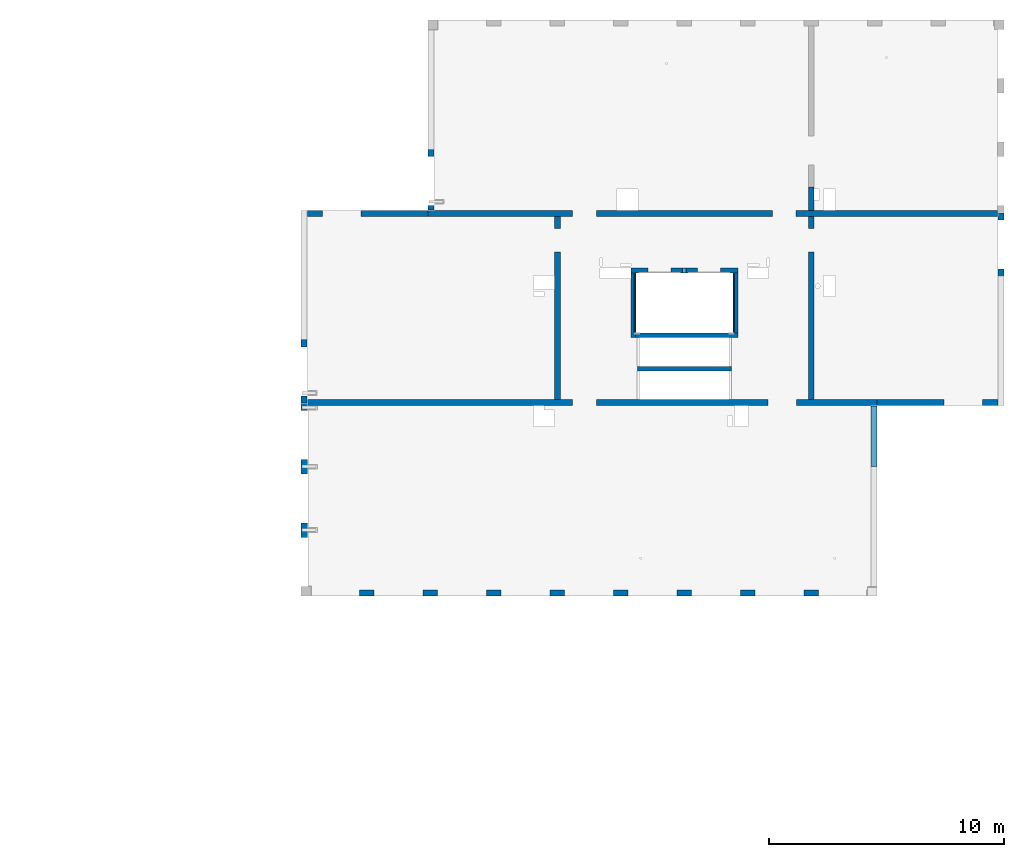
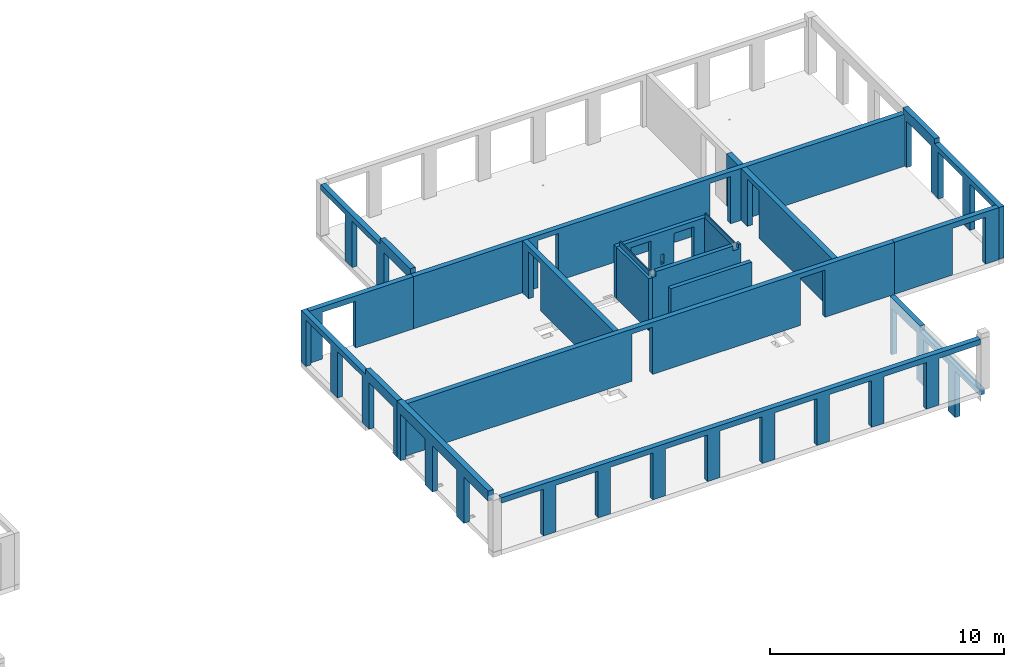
# One storey, part 6 of 12: 20 walls, 42 openings.
"""IFC2X3 building model written with IfcOpenShell, lengths in millimetres."""

import ifcopenshell
import ifcopenshell.guid

model = None  # the IFC model being written
_history = None  # IfcOwnerHistory: only IFC2X3 demands one
_inside = {}  # id of a spatial element -> (the spatial element, [elements in it])
_under = {}  # id of a project, library or spatial element -> (it, [spatial elements below it])
_declared = {}  # id of a project -> (the project, [libraries it declares])
_typed = {}  # id of a type object -> (the type object, [elements of that type])
_made_of = {}  # id of a material, layer set ... -> (it, [elements and type objects made of it])


def new_model(schema):
    """Start an empty IFC model of exactly this schema.

    Asked for "IFC4X3", IfcOpenShell would pick the latest addendum, in which some entities
    have other attributes; the version numbers below select the first issue.
    IFC2X3 requires an IfcOwnerHistory on every rooted entity: one is made here for all.
    """
    global model, _history
    if schema == "IFC4X3":
        model = ifcopenshell.file(schema_version=(4, 3, 0, 0))
    else:
        model = ifcopenshell.file(schema=schema)
    _inside.clear()
    _under.clear()
    _declared.clear()
    _typed.clear()
    _made_of.clear()
    _history = None
    if model.schema == "IFC2X3":
        org = make("IfcOrganization", Name="unknown")
        user = make(
            "IfcPersonAndOrganization",
            ThePerson=make("IfcPerson", FamilyName="unknown"),
            TheOrganization=org,
        )
        app = make(
            "IfcApplication",
            ApplicationDeveloper=org,
            Version="unknown",
            ApplicationFullName="unknown",
            ApplicationIdentifier="unknown",
        )
        _history = make(
            "IfcOwnerHistory",
            OwningUser=user,
            OwningApplication=app,
            ChangeAction="ADDED",
            CreationDate=0,
        )
    return model


def make(cls, **values):
    """One entity of the class cls with the attributes given. An attribute that is None is left unset."""
    return model.create_entity(
        cls, **{name: value for name, value in values.items() if value is not None}
    )


def entity(cls, *values):
    """Any entity or typed value of the class cls, its attributes in the order of the schema. None: left unset."""
    e = model.create_entity(cls)
    for i, value in enumerate(values):
        if value is not None:
            e[i] = value
    return e


def rooted(cls, **values):
    """An entity with a GlobalId (a new one), such as an element, a storey or a relation."""
    return make(cls, GlobalId=ifcopenshell.guid.new(), OwnerHistory=_history, **values)


def si_unit(unit_type, name, prefix=None):
    """IfcSIUnit, for example si_unit("LENGTHUNIT", "METRE", prefix="MILLI")."""
    return make("IfcSIUnit", UnitType=unit_type, Prefix=prefix, Name=name)


def converted_unit(unit_type, name, factor, base, dimensions=None, offset=None):
    """IfcConversionBasedUnit, such as the inch: factor (a typed value) times the base unit."""
    return make(
        "IfcConversionBasedUnit"
        if offset is None
        else "IfcConversionBasedUnitWithOffset",
        ConversionOffset=offset,
        Dimensions=None
        if dimensions is None
        else entity("IfcDimensionalExponents", *dimensions),
        UnitType=unit_type,
        Name=name,
        ConversionFactor=make(
            "IfcMeasureWithUnit", ValueComponent=factor, UnitComponent=base
        ),
    )


def derived_unit(unit_type, elements):
    """IfcDerivedUnit: a product of units, each with its exponent."""
    return make(
        "IfcDerivedUnit",
        Elements=[
            make("IfcDerivedUnitElement", Unit=unit, Exponent=power)
            for unit, power in elements
        ],
        UnitType=unit_type,
    )


def assignment(units):
    """IfcUnitAssignment: the units of a project."""
    return None if units is None else make("IfcUnitAssignment", Units=units)


def point(xyz):
    """IfcCartesianPoint."""
    return None if xyz is None else make("IfcCartesianPoint", Coordinates=xyz)


def direction(xyz):
    """IfcDirection."""
    return None if xyz is None else make("IfcDirection", DirectionRatios=xyz)


def frame(location, z_axis=None, x_axis=None):
    """IfcAxis2Placement3D, a coordinate frame: its origin and axes. An axis left out is left unset."""
    return make(
        "IfcAxis2Placement3D",
        Location=point(location),
        Axis=direction(z_axis),
        RefDirection=direction(x_axis),
    )


def frame_2d(location, x_axis=None):
    """IfcAxis2Placement2D, a coordinate frame in the plane: its origin and x axis."""
    return make(
        "IfcAxis2Placement2D", Location=point(location), RefDirection=direction(x_axis)
    )


def origin():
    """The frame at (0, 0, 0) with its axes left unset."""
    return frame((0.0, 0.0, 0.0))


def origin_2d_with_axis():
    """The frame at (0, 0) in the plane with the x axis (1, 0) written out."""
    return frame_2d((0.0, 0.0), x_axis=(1.0, 0.0))


def place(relative_to, where):
    """IfcLocalPlacement: puts the frame where relative to a parent placement (None: the world)."""
    return make(
        "IfcLocalPlacement", PlacementRelTo=relative_to, RelativePlacement=where
    )


def context(
    kind, dimensions, precision=None, world=None, true_north=None, identifier=None
):
    """IfcGeometricRepresentationContext, for example the 3D "Model" context."""
    return make(
        "IfcGeometricRepresentationContext",
        ContextIdentifier=identifier,
        ContextType=kind,
        CoordinateSpaceDimension=dimensions,
        Precision=precision,
        WorldCoordinateSystem=world,
        TrueNorth=true_north,
    )


def subcontext(parent, identifier, kind, view, scale=None):
    """IfcGeometricRepresentationSubContext, for example "Body" below "Model"."""
    return make(
        "IfcGeometricRepresentationSubContext",
        ContextIdentifier=identifier,
        ContextType=kind,
        ParentContext=parent,
        TargetScale=scale,
        TargetView=view,
    )


def project(units=None, contexts=None):
    """IfcProject with its units and contexts."""
    return rooted(
        "IfcProject",
        Name="project",
        RepresentationContexts=contexts,
        UnitsInContext=assignment(units),
    )


def spatial(cls, under=None, at=None, **own):
    """A site, building, storey or space (cls), placed at a placement, below another one or the project."""
    s = rooted(cls, ObjectPlacement=at, **own)
    if under is not None:
        _under.setdefault(under.id(), (under, []))[1].append(s)
    return s


def profile(cls, at=None, kind="AREA", **sizes):
    """A parametric profile (cls). Its sizes go by their IFC names, for example OverallWidth=200.0."""
    return make(cls, ProfileType=kind, Position=at, **sizes)


def rectangle(**sizes):
    """IfcRectangleProfileDef."""
    return profile("IfcRectangleProfileDef", **sizes)


def extrude(swept, where, along, depth):
    """IfcExtrudedAreaSolid: the profile swept, set in the frame where, extruded along a direction by depth."""
    return make(
        "IfcExtrudedAreaSolid",
        SweptArea=swept,
        Position=where,
        ExtrudedDirection=direction(along),
        Depth=depth,
    )


def shape(context_of_items, identifier, shape_type, items):
    """IfcShapeRepresentation: the items that make up one representation, for example the "Body"."""
    return make(
        "IfcShapeRepresentation",
        ContextOfItems=context_of_items,
        RepresentationIdentifier=identifier,
        RepresentationType=shape_type,
        Items=items,
    )


def material(Name=None, Category=None):
    """IfcMaterial."""
    return make("IfcMaterial", Name=Name, Category=Category)


def layer(
    of_material, thickness, ventilated=None, Name=None, Category=None, Priority=None
):
    """IfcMaterialLayer: one layer of a wall or slab, of a material (None: an air gap)."""
    return make(
        "IfcMaterialLayer",
        Material=of_material,
        LayerThickness=thickness,
        IsVentilated=ventilated,
        Name=Name,
        Category=Category,
        Priority=Priority,
    )


def layer_set(layers, Name=None):
    """IfcMaterialLayerSet."""
    return make("IfcMaterialLayerSet", MaterialLayers=layers, LayerSetName=Name)


def layer_usage(for_layer_set, set_direction, sense, offset, extent=None):
    """IfcMaterialLayerSetUsage: how a layer set lies in its element."""
    return make(
        "IfcMaterialLayerSetUsage",
        ForLayerSet=for_layer_set,
        LayerSetDirection=set_direction,
        DirectionSense=sense,
        OffsetFromReferenceLine=offset,
        ReferenceExtent=extent,
    )


def made_of(thing, what):
    """Note that an element or type object is made of a material, layer set ...; save() writes the relation."""
    if what is not None:
        _made_of.setdefault(what.id(), (what, []))[1].append(thing)
    return thing


def type_object(cls, material=None, **own):
    """A type object (cls), such as IfcWallType, which elements share."""
    return made_of(rooted(cls, **own), material)


def element(
    cls,
    number,
    at=None,
    inside=None,
    cuts=None,
    type_object=None,
    material=None,
    context=None,
    identifier="Body",
    shape_type=None,
    held_by="IfcProductDefinitionShape",
    body=None,
    shapes=None,
    **own,
):
    """One element of the class cls, such as IfcWall. Its Tag is "e" and its number.

    at: its placement. inside: the storey or other place that contains it. cuts: it is an
    opening in that element (IfcRelVoidsElement). A single representation is given by context,
    identifier, shape_type and body (its items); several are given by shapes. held_by: the class
    of the entity that holds the representations. save() writes the other relations.
    """
    e = rooted(cls, Tag="e%d" % number, ObjectPlacement=at, **own)
    if body is not None:
        shapes = [shape(context, identifier, shape_type, body)]
    if shapes is not None:
        e.Representation = make(held_by, Representations=shapes)
    if inside is not None:
        _inside.setdefault(inside.id(), (inside, []))[1].append(e)
    if cuts is not None:
        rooted(
            "IfcRelVoidsElement", RelatingBuildingElement=cuts, RelatedOpeningElement=e
        )
    if type_object is not None:
        _typed.setdefault(type_object.id(), (type_object, []))[1].append(e)
    return made_of(e, material)


def aggregate(whole, parts):
    """IfcRelAggregates: a whole, such as a stair, and the parts it consists of."""
    return rooted("IfcRelAggregates", RelatingObject=whole, RelatedObjects=parts)


def save(model, path):
    """Write the relations noted so far, then the file.

    IfcRelAggregates (storeys below a building ...), IfcRelContainedInSpatialStructure (elements
    in a storey), IfcRelDefinesByType, IfcRelAssociatesMaterial and IfcRelDeclares: one each for
    every whole, place, type object, material and project.
    """
    for whole, parts in _under.values():
        aggregate(whole, parts)
    for where, things in _inside.values():
        rooted(
            "IfcRelContainedInSpatialStructure",
            RelatedElements=things,
            RelatingStructure=where,
        )
    for kind, things in _typed.values():
        rooted("IfcRelDefinesByType", RelatedObjects=things, RelatingType=kind)
    for what, things in _made_of.values():
        rooted("IfcRelAssociatesMaterial", RelatedObjects=things, RelatingMaterial=what)
    for by, libraries in _declared.values():
        rooted("IfcRelDeclares", RelatingContext=by, RelatedDefinitions=libraries)
    model.write(path)


model = new_model("IFC2X3")

# Units and contexts
model_context = context("Model", 3, precision=0.01, world=origin(), true_north=direction((6.12303176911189e-17, 1.0)))
body_context = subcontext(model_context, "Body", "Model", "MODEL_VIEW")
ifc_project = project(units=[si_unit("LENGTHUNIT", "METRE", prefix="MILLI"), si_unit("AREAUNIT", "SQUARE_METRE"), si_unit("VOLUMEUNIT", "CUBIC_METRE"), converted_unit("PLANEANGLEUNIT", "DEGREE", entity("IfcRatioMeasure", 0.0174532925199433), si_unit("PLANEANGLEUNIT", "RADIAN"), dimensions=[0, 0, 0, 0, 0, 0, 0]), si_unit("MASSUNIT", "GRAM", prefix="KILO"), derived_unit("MASSDENSITYUNIT", [(si_unit("MASSUNIT", "GRAM", prefix="KILO"), 1), (si_unit("LENGTHUNIT", "METRE"), -3)]), si_unit("TIMEUNIT", "SECOND"), si_unit("FREQUENCYUNIT", "HERTZ"), si_unit("THERMODYNAMICTEMPERATUREUNIT", "DEGREE_CELSIUS"), derived_unit("THERMALTRANSMITTANCEUNIT", [(si_unit("MASSUNIT", "GRAM", prefix="KILO"), 1), (si_unit("THERMODYNAMICTEMPERATUREUNIT", "KELVIN"), -1), (si_unit("TIMEUNIT", "SECOND"), -3)]), derived_unit("VOLUMETRICFLOWRATEUNIT", [(si_unit("LENGTHUNIT", "METRE"), 3), (si_unit("TIMEUNIT", "SECOND"), -1)]), si_unit("ELECTRICCURRENTUNIT", "AMPERE"), si_unit("ELECTRICVOLTAGEUNIT", "VOLT"), si_unit("POWERUNIT", "WATT"), si_unit("FORCEUNIT", "NEWTON", prefix="KILO"), si_unit("ILLUMINANCEUNIT", "LUX"), si_unit("LUMINOUSFLUXUNIT", "LUMEN"), si_unit("LUMINOUSINTENSITYUNIT", "CANDELA"), derived_unit("USERDEFINED", [(si_unit("MASSUNIT", "GRAM", prefix="KILO"), -1), (si_unit("LENGTHUNIT", "METRE"), -2), (si_unit("TIMEUNIT", "SECOND"), 3), (si_unit("LUMINOUSFLUXUNIT", "LUMEN"), 1)]), derived_unit("LINEARVELOCITYUNIT", [(si_unit("LENGTHUNIT", "METRE"), 1), (si_unit("TIMEUNIT", "SECOND"), -1)]), si_unit("PRESSUREUNIT", "PASCAL"), derived_unit("USERDEFINED", [(si_unit("LENGTHUNIT", "METRE"), -2), (si_unit("MASSUNIT", "GRAM", prefix="KILO"), 1), (si_unit("TIMEUNIT", "SECOND"), -2)])], contexts=[model_context])

# Site, building, storey
site_placement = place(None, origin())
site = spatial("IfcSite", under=ifc_project, at=site_placement, Name="Default", CompositionType="ELEMENT")
building_placement = place(site_placement, origin())
building = spatial("IfcBuilding", under=site, at=building_placement, Name="niet gebruiken", CompositionType="ELEMENT")
storey_placement = place(building_placement, frame((0.0, 0.0, 18540.0)))
storey = spatial("IfcBuildingStorey", under=building, at=storey_placement, Name="06 zesde verdieping", CompositionType="ELEMENT", Elevation=18540.0)

# Wall, openings
ifc_material_1 = material(Name="NLRS_f2_beton ihwg")
ifc_layer_1 = layer(ifc_material_1, 250.0)
ifc_layer_set_1 = layer_set([ifc_layer_1], Name="Basic Wall:NLRS_22.21_WA_beton ihwg d=250_gen")
ifc_layer_usage_1 = layer_usage(ifc_layer_set_1, "AXIS2", "NEGATIVE", 125.0)
wall_type_1 = type_object("IfcWallType", Name="Basic Wall:NLRS_22.21_WA_beton ihwg d=250_gen", PredefinedType="STANDARD", material=ifc_layer_set_1)
wall_1_placement = place(storey_placement, frame((75770.0, 36981.0, -90.0)))
wall_1 = element("IfcWallStandardCase", 1, at=wall_1_placement, inside=storey, type_object=wall_type_1, material=ifc_layer_usage_1, Name="Basic Wall:NLRS_22.21_WA_beton ihwg d=250_gen", ObjectType="Basic Wall:NLRS_22.21_WA_beton ihwg d=250_gen", context=body_context, shape_type="SweptSolid", body=[
    extrude(rectangle(XDim=24230.0, YDim=250.000000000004, at=frame_2d((12115.0, 0.0), x_axis=(-1.0, 0.0))), origin(), (0.0, 0.0, 1.0), 2719.99999999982),
])
opening_1_placement = place(wall_1_placement, origin())
element("IfcOpeningElement", 2, at=opening_1_placement, cuts=wall_1, Name="Basic Wall:NLRS_22.21_WA_beton ihwg d=250_gen", ObjectType="Opening", context=body_context, shape_type="SweptSolid", body=[
    extrude(rectangle(XDim=2470.0, YDim=1225.0, at=frame_2d((8.69704308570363e-12, 0.0), x_axis=(0.0, 1.0))), frame((20192.500000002, -1399.0, 1235.0), z_axis=(0.0, 1.0, 0.0), x_axis=(-1.0, 0.0, 0.0)), (0.0, 0.0, 1.0), 3048.0),
])
opening_2_placement = place(wall_1_placement, origin())
element("IfcOpeningElement", 3, at=opening_2_placement, cuts=wall_1, Name="Basic Wall:NLRS_22.21_WA_beton ihwg d=250_gen", ObjectType="Opening", context=body_context, shape_type="SweptSolid", body=[
    extrude(rectangle(XDim=2470.0, YDim=1006.0, at=frame_2d((8.66862137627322e-12, 3.29691829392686e-12), x_axis=(0.0, 1.0))), frame((11782.0, -1399.0, 1235.0), z_axis=(0.0, 1.0, 0.0), x_axis=(-1.0, 0.0, 0.0)), (0.0, 0.0, 1.0), 3048.0),
])
opening_3_placement = place(wall_1_placement, origin())
element("IfcOpeningElement", 4, at=opening_3_placement, cuts=wall_1, Name="Basic Wall:NLRS_22.21_WA_beton ihwg d=250_gen", ObjectType="Recess", context=body_context, shape_type="SweptSolid", body=[
    extrude(rectangle(XDim=55000.0, YDim=19.9999999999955, at=frame_2d((0.0, 4.33164615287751e-12), x_axis=(1.0, 0.0))), frame((10.0, -140.0, 21560.0), z_axis=(0.0, 1.0, 0.0), x_axis=(0.0, 0.0, -1.0)), (0.0, 0.0, 1.0), 124.999999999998),
])

# Wall, opening
ifc_layer_usage_2 = layer_usage(ifc_layer_set_1, "AXIS2", "NEGATIVE", 125.0)
wall_2_placement = place(storey_placement, frame((75770.0, 45031.0, -90.0)))
wall_2 = element("IfcWallStandardCase", 5, at=wall_2_placement, inside=storey, type_object=wall_type_1, material=ifc_layer_usage_2, Name="Basic Wall:NLRS_22.21_WA_beton ihwg d=250_gen", ObjectType="Basic Wall:NLRS_22.21_WA_beton ihwg d=250_gen", context=body_context, shape_type="SweptSolid", body=[
    extrude(rectangle(XDim=5130.0, YDim=249.999999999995, at=frame_2d((2565.0, 0.0), x_axis=(-1.0, 0.0))), origin(), (0.0, 0.0, 1.0), 2719.99999999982),
])
opening_4_placement = place(wall_2_placement, origin())
element("IfcOpeningElement", 6, at=opening_4_placement, cuts=wall_2, Name="Basic Wall:NLRS_22.21_WA_beton ihwg d=250_gen", ObjectType="Opening", context=body_context, shape_type="SweptSolid", body=[
    extrude(rectangle(XDim=2440.0, YDim=1640.0, at=frame_2d((-1.13686837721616e-12, -4.37694325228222e-12), x_axis=(1.0, 0.0))), frame((1460.0, -1649.0, 1220.0), z_axis=(0.0, 1.0, 0.0), x_axis=(0.0, 0.0, 1.0)), (0.0, 0.0, 1.0), 3048.0),
])

ifc_layer_usage_3 = layer_usage(ifc_layer_set_1, "AXIS2", "NEGATIVE", 125.0)
wall_3_placement = place(storey_placement, frame((86400.0, 44906.0, -90.0), z_axis=(0.0, 0.0, 1.0), x_axis=(0.0, -1.0, 0.0)))
wall_3 = element("IfcWallStandardCase", 7, at=wall_3_placement, inside=storey, type_object=wall_type_1, material=ifc_layer_usage_3, Name="Basic Wall:NLRS_22.21_WA_beton ihwg d=250_gen", ObjectType="Basic Wall:NLRS_22.21_WA_beton ihwg d=250_gen", context=body_context, shape_type="SweptSolid", body=[
    extrude(rectangle(XDim=7799.99999999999, YDim=250.000000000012, at=frame_2d((3900.0, 0.0), x_axis=(-1.0, 0.0))), origin(), (0.0, 0.0, 1.0), 2719.99999999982),
])
opening_5_placement = place(wall_3_placement, origin())
element("IfcOpeningElement", 8, at=opening_5_placement, cuts=wall_3, Name="Basic Wall:NLRS_22.21_WA_beton ihwg d=250_gen", ObjectType="Opening", context=body_context, shape_type="SweptSolid", body=[
    extrude(rectangle(XDim=2470.0, YDim=1006.0, at=origin_2d_with_axis()), frame((1027.0, -1649.0, 1235.0), z_axis=(0.0, 1.0, 0.0), x_axis=(0.0, 0.0, 1.0)), (0.0, 0.0, 1.0), 3048.0),
])

ifc_layer_usage_4 = layer_usage(ifc_layer_set_1, "AXIS2", "NEGATIVE", 125.0)
wall_4_placement = place(storey_placement, frame((97200.0, 44906.0, -90.0), z_axis=(0.0, 0.0, 1.0), x_axis=(0.0, -1.0, 0.0)))
wall_4 = element("IfcWallStandardCase", 9, at=wall_4_placement, inside=storey, type_object=wall_type_1, material=ifc_layer_usage_4, Name="Basic Wall:NLRS_22.21_WA_beton ihwg d=250_gen", ObjectType="Basic Wall:NLRS_22.21_WA_beton ihwg d=250_gen", context=body_context, shape_type="SweptSolid", body=[
    extrude(rectangle(XDim=7799.99999999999, YDim=250.000000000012, at=frame_2d((3900.0, 0.0), x_axis=(-1.0, 0.0))), origin(), (0.0, 0.0, 1.0), 2719.99999999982),
])
opening_6_placement = place(wall_4_placement, origin())
element("IfcOpeningElement", 10, at=opening_6_placement, cuts=wall_4, Name="Basic Wall:NLRS_22.21_WA_beton ihwg d=250_gen", ObjectType="Opening", context=body_context, shape_type="SweptSolid", body=[
    extrude(rectangle(XDim=2470.0, YDim=1006.0, at=origin_2d_with_axis()), frame((1027.0, -1649.0, 1235.0), z_axis=(0.0, 1.0, 0.0), x_axis=(0.0, 0.0, 1.0)), (0.0, 0.0, 1.0), 3048.0),
])

# Wall, openings
ifc_layer_usage_5 = layer_usage(ifc_layer_set_1, "AXIS2", "NEGATIVE", 125.0)
wall_5_placement = place(storey_placement, frame((80900.0, 45031.0, -90.0)))
wall_5 = element("IfcWallStandardCase", 11, at=wall_5_placement, inside=storey, type_object=wall_type_1, material=ifc_layer_usage_5, Name="Basic Wall:NLRS_22.21_WA_beton ihwg d=250_gen", ObjectType="Basic Wall:NLRS_22.21_WA_beton ihwg d=250_gen", context=body_context, shape_type="SweptSolid", body=[
    extrude(rectangle(XDim=24230.0000000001, YDim=249.999999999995, at=frame_2d((12115.0000000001, 0.0), x_axis=(-1.0, 0.0))), origin(), (0.0, 0.0, 1.0), 2719.99999999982),
])
opening_7_placement = place(wall_5_placement, origin())
element("IfcOpeningElement", 12, at=opening_7_placement, cuts=wall_5, Name="Basic Wall:NLRS_22.21_WA_beton ihwg d=250_gen", ObjectType="Opening", context=body_context, shape_type="SweptSolid", body=[
    extrude(rectangle(XDim=2470.0, YDim=1006.0, at=frame_2d((0.0, 8.66862137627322e-12), x_axis=(1.0, 0.0))), frame((15148.0, -1649.0, 1235.0), z_axis=(0.0, 1.0, 0.0), x_axis=(0.0, 0.0, 1.0)), (0.0, 0.0, 1.0), 3048.0),
])
opening_8_placement = place(wall_5_placement, origin())
element("IfcOpeningElement", 13, at=opening_8_placement, cuts=wall_5, Name="Basic Wall:NLRS_22.21_WA_beton ihwg d=250_gen", ObjectType="Opening", context=body_context, shape_type="SweptSolid", body=[
    extrude(rectangle(XDim=2470.0, YDim=1006.0, at=frame_2d((0.0, 8.66862137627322e-12), x_axis=(1.0, 0.0))), frame((6652.0, -1649.0, 1235.0), z_axis=(0.0, 1.0, 0.0), x_axis=(0.0, 0.0, 1.0)), (0.0, 0.0, 1.0), 3048.0),
])

# Wall, opening
ifc_layer_usage_6 = layer_usage(ifc_layer_set_1, "AXIS2", "NEGATIVE", 125.0)
wall_6_placement = place(storey_placement, frame((100000.0, 36981.0, -90.0)))
wall_6 = element("IfcWallStandardCase", 14, at=wall_6_placement, inside=storey, type_object=wall_type_1, material=ifc_layer_usage_6, Name="Basic Wall:NLRS_22.21_WA_beton ihwg d=250_gen", ObjectType="Basic Wall:NLRS_22.21_WA_beton ihwg d=250_gen", context=body_context, shape_type="SweptSolid", body=[
    extrude(rectangle(XDim=5150.00000000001, YDim=250.000000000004, at=frame_2d((2575.0, 0.0), x_axis=(-1.0, 0.0))), origin(), (0.0, 0.0, 1.0), 2719.99999999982),
])
opening_9_placement = place(wall_6_placement, origin())
element("IfcOpeningElement", 15, at=opening_9_placement, cuts=wall_6, Name="Basic Wall:NLRS_22.21_WA_beton ihwg d=250_gen", ObjectType="Opening", context=body_context, shape_type="SweptSolid", body=[
    extrude(rectangle(XDim=2440.0, YDim=1639.99999999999, at=frame_2d((-8.69704308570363e-12, -1.13686837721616e-12), x_axis=(0.0, 1.0))), frame((3670.0, -1399.0, 1220.0), z_axis=(0.0, 1.0, 0.0), x_axis=(-1.0, 0.0, 0.0)), (0.0, 0.0, 1.0), 3048.0),
])

# Wall
ifc_layer_usage_7 = layer_usage(ifc_layer_set_1, "AXIS2", "NEGATIVE", 125.0)
wall_7_placement = place(storey_placement, frame((97200.0, 46156.0, -90.0), z_axis=(0.0, 0.0, 1.0), x_axis=(0.0, -1.0, 0.0)))
element("IfcWallStandardCase", 16, at=wall_7_placement, inside=storey, type_object=wall_type_1, material=ifc_layer_usage_7, Name="Basic Wall:NLRS_22.21_WA_beton ihwg d=250_gen", ObjectType="Basic Wall:NLRS_22.21_WA_beton ihwg d=250_gen", context=body_context, shape_type="SweptSolid", body=[
    extrude(rectangle(XDim=999.999999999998, YDim=250.000000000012, at=frame_2d((499.999999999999, 1.10134124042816e-12), x_axis=(-1.0, 0.0))), origin(), (0.0, 0.0, 1.0), 2719.99999999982),
])

# Wall, openings
ifc_material_2 = material(Name="NLRS_f2_beton prefab")
ifc_layer_2 = layer(ifc_material_2, 250.0)
ifc_layer_set_2 = layer_set([ifc_layer_2], Name="Basic Wall:NLRS_21.21_WA_beton prefab d=250_gen")
ifc_layer_usage_8 = layer_usage(ifc_layer_set_2, "AXIS2", "NEGATIVE", 125.0)
wall_type_2 = type_object("IfcWallType", Name="Basic Wall:NLRS_21.21_WA_beton prefab d=250_gen", PredefinedType="STANDARD", material=ifc_layer_set_2)
wall_8_placement = place(storey_placement, frame((75625.0, 45156.0, -70.0), z_axis=(0.0, 0.0, 1.0), x_axis=(0.0, -1.0, 0.0)))
wall_8 = element("IfcWallStandardCase", 17, at=wall_8_placement, inside=storey, type_object=wall_type_2, material=ifc_layer_usage_8, Name="Basic Wall:NLRS_21.21_WA_beton prefab d=250_gen", ObjectType="Basic Wall:NLRS_21.21_WA_beton prefab d=250_gen", context=body_context, shape_type="SweptSolid", body=[
    extrude(rectangle(XDim=8189.99999999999, YDim=249.999999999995, at=frame_2d((4095.0, 0.0), x_axis=(-1.0, 0.0))), origin(), (0.0, 0.0, 1.0), 2949.99999999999),
])
opening_10_placement = place(wall_8_placement, origin())
element("IfcOpeningElement", 18, at=opening_10_placement, cuts=wall_8, Name="Basic Wall:NLRS_21.21_WA_beton prefab d=250_gen", ObjectType="Opening", context=body_context, shape_type="SweptSolid", body=[
    extrude(rectangle(XDim=2420.0, YDim=2080.0, at=frame_2d((0.0, 1.02318153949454e-12), x_axis=(0.0, 1.0))), frame((1450.0, -1399.0, 1210.0), z_axis=(0.0, 1.0, 0.0), x_axis=(-1.0, 0.0, 0.0)), (0.0, 0.0, 1.0), 3048.0),
])
opening_11_placement = place(wall_8_placement, origin())
element("IfcOpeningElement", 19, at=opening_11_placement, cuts=wall_8, Name="Basic Wall:NLRS_21.21_WA_beton prefab d=250_gen", ObjectType="Opening", context=body_context, shape_type="SweptSolid", body=[
    extrude(rectangle(XDim=2420.0, YDim=2080.0, at=frame_2d((0.0, 1.02318153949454e-12), x_axis=(0.0, 1.0))), frame((4150.0, -1399.0, 1210.0), z_axis=(0.0, 1.0, 0.0), x_axis=(-1.0, 0.0, 0.0)), (0.0, 0.0, 1.0), 3048.0),
])
opening_12_placement = place(wall_8_placement, origin())
element("IfcOpeningElement", 20, at=opening_12_placement, cuts=wall_8, Name="Basic Wall:NLRS_21.21_WA_beton prefab d=250_gen", ObjectType="Opening", context=body_context, shape_type="SweptSolid", body=[
    extrude(rectangle(XDim=2420.0, YDim=2080.0, at=frame_2d((0.0, 1.02318153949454e-12), x_axis=(0.0, 1.0))), frame((6850.0, -1399.0, 1210.0), z_axis=(0.0, 1.0, 0.0), x_axis=(-1.0, 0.0, 0.0)), (0.0, 0.0, 1.0), 3048.0),
])
opening_13_placement = place(wall_8_placement, origin())
element("IfcOpeningElement", 21, at=opening_13_placement, cuts=wall_8, Name="Basic Wall:NLRS_21.21_WA_beton prefab d=250_gen", ObjectType="Opening", context=body_context, shape_type="SweptSolid", body=[
    extrude(rectangle(XDim=250.000000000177, YDim=5499.99999999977, at=frame_2d((0.0, 0.0), x_axis=(0.0, 1.0))), frame((2750.0, 125.0, 2825.0), z_axis=(0.0, -1.0, 0.0), x_axis=(-1.0, 0.0, 0.0)), (0.0, 0.0, 1.0), 250.0),
])

ifc_layer_usage_9 = layer_usage(ifc_layer_set_2, "AXIS2", "NEGATIVE", 125.0)
wall_9_placement = place(storey_placement, frame((81025.0, 52846.0, -70.0), z_axis=(0.0, 0.0, 1.0), x_axis=(0.0, -1.0, 0.0)))
wall_9 = element("IfcWallStandardCase", 22, at=wall_9_placement, inside=storey, type_object=wall_type_2, material=ifc_layer_usage_9, Name="Basic Wall:NLRS_21.21_WA_beton prefab d=250_gen", ObjectType="Basic Wall:NLRS_21.21_WA_beton prefab d=250_gen", context=body_context, shape_type="SweptSolid", body=[
    extrude(rectangle(XDim=7670.00000000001, YDim=250.000000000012, at=frame_2d((3835.0, 0.0), x_axis=(-1.0, 0.0))), origin(), (0.0, 0.0, 1.0), 2949.99999999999),
])
opening_14_placement = place(wall_9_placement, origin())
element("IfcOpeningElement", 23, at=opening_14_placement, cuts=wall_9, Name="Basic Wall:NLRS_21.21_WA_beton prefab d=250_gen", ObjectType="Opening", context=body_context, shape_type="SweptSolid", body=[
    extrude(rectangle(XDim=2420.0, YDim=2080.0, at=frame_2d((0.0, 2.1600499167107e-12), x_axis=(0.0, 1.0))), frame((1040.0, -1399.0, 1210.0), z_axis=(0.0, 1.0, 0.0), x_axis=(-1.0, 0.0, 0.0)), (0.0, 0.0, 1.0), 3048.0),
])
opening_15_placement = place(wall_9_placement, origin())
element("IfcOpeningElement", 24, at=opening_15_placement, cuts=wall_9, Name="Basic Wall:NLRS_21.21_WA_beton prefab d=250_gen", ObjectType="Opening", context=body_context, shape_type="SweptSolid", body=[
    extrude(rectangle(XDim=2420.0, YDim=2080.0, at=frame_2d((0.0, 1.02318153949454e-12), x_axis=(0.0, 1.0))), frame((3740.0, -1399.0, 1210.0), z_axis=(0.0, 1.0, 0.0), x_axis=(-1.0, 0.0, 0.0)), (0.0, 0.0, 1.0), 3048.0),
])
opening_16_placement = place(wall_9_placement, origin())
element("IfcOpeningElement", 25, at=opening_16_placement, cuts=wall_9, Name="Basic Wall:NLRS_21.21_WA_beton prefab d=250_gen", ObjectType="Opening", context=body_context, shape_type="SweptSolid", body=[
    extrude(rectangle(XDim=2420.0, YDim=2080.0, at=frame_2d((0.0, 1.02318153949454e-12), x_axis=(0.0, 1.0))), frame((6440.0, -1399.0, 1210.0), z_axis=(0.0, 1.0, 0.0), x_axis=(-1.0, 0.0, 0.0)), (0.0, 0.0, 1.0), 3048.0),
])
opening_17_placement = place(wall_9_placement, origin())
element("IfcOpeningElement", 26, at=opening_17_placement, cuts=wall_9, Name="Basic Wall:NLRS_21.21_WA_beton prefab d=250_gen", ObjectType="Opening", context=body_context, shape_type="SweptSolid", body=[
    extrude(rectangle(XDim=250.000000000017, YDim=5089.99999999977, at=frame_2d((-4.32009983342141e-12, 2.16715534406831e-12), x_axis=(0.0, 1.0))), frame((2545.0, 125.0, 2825.0), z_axis=(0.0, -1.0, 0.0), x_axis=(-1.0, 0.0, 0.0)), (0.0, 0.0, 1.0), 250.0),
])

ifc_layer_usage_10 = layer_usage(ifc_layer_set_2, "AXIS2", "NEGATIVE", 125.0)
wall_10_placement = place(storey_placement, frame((105275.0, 45046.0, -70.0), z_axis=(0.0, 0.0, 1.0), x_axis=(0.0, -1.0, 0.0)))
wall_10 = element("IfcWallStandardCase", 27, at=wall_10_placement, inside=storey, type_object=wall_type_2, material=ifc_layer_usage_10, Name="Basic Wall:NLRS_21.21_WA_beton prefab d=250_gen", ObjectType="Basic Wall:NLRS_21.21_WA_beton prefab d=250_gen", context=body_context, shape_type="SweptSolid", body=[
    extrude(rectangle(XDim=8189.99999999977, YDim=250.000000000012, at=frame_2d((4094.99999999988, 0.0), x_axis=(-1.0, 0.0))), origin(), (0.0, 0.0, 1.0), 2949.99999999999),
])
opening_18_placement = place(wall_10_placement, origin())
element("IfcOpeningElement", 28, at=opening_18_placement, cuts=wall_10, Name="Basic Wall:NLRS_21.21_WA_beton prefab d=250_gen", ObjectType="Opening", context=body_context, shape_type="SweptSolid", body=[
    extrude(rectangle(XDim=2420.0, YDim=2080.0, at=frame_2d((0.0, 2.1600499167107e-12), x_axis=(0.0, 1.0))), frame((1340.0, -1399.0, 1210.0), z_axis=(0.0, 1.0, 0.0), x_axis=(-1.0, 0.0, 0.0)), (0.0, 0.0, 1.0), 3048.0),
])
opening_19_placement = place(wall_10_placement, origin())
element("IfcOpeningElement", 29, at=opening_19_placement, cuts=wall_10, Name="Basic Wall:NLRS_21.21_WA_beton prefab d=250_gen", ObjectType="Opening", context=body_context, shape_type="SweptSolid", body=[
    extrude(rectangle(XDim=2420.0, YDim=2080.0, at=frame_2d((0.0, 2.1600499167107e-12), x_axis=(0.0, 1.0))), frame((4040.0, -1399.0, 1210.0), z_axis=(0.0, 1.0, 0.0), x_axis=(-1.0, 0.0, 0.0)), (0.0, 0.0, 1.0), 3048.0),
])
opening_20_placement = place(wall_10_placement, origin())
element("IfcOpeningElement", 30, at=opening_20_placement, cuts=wall_10, Name="Basic Wall:NLRS_21.21_WA_beton prefab d=250_gen", ObjectType="Opening", context=body_context, shape_type="SweptSolid", body=[
    extrude(rectangle(XDim=2420.0, YDim=2080.0, at=frame_2d((0.0, 2.1600499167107e-12), x_axis=(0.0, 1.0))), frame((6740.0, -1399.0, 1210.0), z_axis=(0.0, 1.0, 0.0), x_axis=(-1.0, 0.0, 0.0)), (0.0, 0.0, 1.0), 3048.0),
])
opening_21_placement = place(wall_10_placement, origin())
element("IfcOpeningElement", 31, at=opening_21_placement, cuts=wall_10, Name="Basic Wall:NLRS_21.21_WA_beton prefab d=250_gen", ObjectType="Opening", context=body_context, shape_type="SweptSolid", body=[
    extrude(rectangle(XDim=249.999999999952, YDim=5500.0000000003, at=frame_2d((0.0, 4.32009983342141e-12), x_axis=(1.0, 0.0))), frame((5440.0, 125.0, 2825.0), z_axis=(0.0, -1.0, 0.0), x_axis=(0.0, 0.0, 1.0)), (0.0, 0.0, 1.0), 250.0),
])

ifc_layer_usage_11 = layer_usage(ifc_layer_set_2, "AXIS2", "NEGATIVE", 125.0)
wall_11_placement = place(storey_placement, frame((99875.0, 29166.0, -3040.0), z_axis=(0.0, 0.0, 1.0), x_axis=(0.0, 1.0, 0.0)))
wall_11 = element("IfcWallStandardCase", 32, at=wall_11_placement, inside=storey, type_object=wall_type_2, material=ifc_layer_usage_11, Name="Basic Wall:NLRS_21.21_WA_beton prefab d=250_gen", ObjectType="Basic Wall:NLRS_21.21_WA_beton prefab d=250_gen", context=body_context, shape_type="SweptSolid", body=[
    extrude(rectangle(XDim=7669.99999999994, YDim=250.000000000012, at=frame_2d((3834.99999999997, 0.0), x_axis=(-1.0, 0.0))), origin(), (0.0, 0.0, 1.0), 2949.99999999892),
])
opening_22_placement = place(wall_11_placement, origin())
element("IfcOpeningElement", 33, at=opening_22_placement, cuts=wall_11, Name="Basic Wall:NLRS_21.21_WA_beton prefab d=250_gen", ObjectType="Opening", context=body_context, shape_type="SweptSolid", body=[
    extrude(rectangle(XDim=2420.0, YDim=2080.0, at=frame_2d((2.1600499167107e-12, -1.02318153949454e-12), x_axis=(0.0, 1.0))), frame((1040.0, -1399.0, 1210.0), z_axis=(0.0, 1.0, 0.0), x_axis=(-1.0, 0.0, 0.0)), (0.0, 0.0, 1.0), 3048.0),
])
opening_23_placement = place(wall_11_placement, origin())
element("IfcOpeningElement", 34, at=opening_23_placement, cuts=wall_11, Name="Basic Wall:NLRS_21.21_WA_beton prefab d=250_gen", ObjectType="Opening", context=body_context, shape_type="SweptSolid", body=[
    extrude(rectangle(XDim=2420.0, YDim=2080.0, at=frame_2d((2.1600499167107e-12, -1.02318153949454e-12), x_axis=(0.0, 1.0))), frame((3740.0, -1399.0, 1210.0), z_axis=(0.0, 1.0, 0.0), x_axis=(-1.0, 0.0, 0.0)), (0.0, 0.0, 1.0), 3048.0),
])
opening_24_placement = place(wall_11_placement, origin())
element("IfcOpeningElement", 35, at=opening_24_placement, cuts=wall_11, Name="Basic Wall:NLRS_21.21_WA_beton prefab d=250_gen", ObjectType="Opening", context=body_context, shape_type="SweptSolid", body=[
    extrude(rectangle(XDim=2420.0, YDim=2080.0, at=frame_2d((2.1600499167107e-12, -1.02318153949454e-12), x_axis=(0.0, 1.0))), frame((6440.0, -1399.0, 1210.0), z_axis=(0.0, 1.0, 0.0), x_axis=(-1.0, 0.0, 0.0)), (0.0, 0.0, 1.0), 3048.0),
])
opening_25_placement = place(wall_11_placement, origin())
element("IfcOpeningElement", 36, at=opening_25_placement, cuts=wall_11, Name="Basic Wall:NLRS_21.21_WA_beton prefab d=250_gen", ObjectType="Opening", context=body_context, shape_type="SweptSolid", body=[
    extrude(rectangle(XDim=249.999999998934, YDim=5090.00000000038, at=frame_2d((0.0, -2.16715534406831e-12), x_axis=(0.0, 1.0))), frame((2545.0, 125.0, 2825.0), z_axis=(0.0, -1.0, 0.0), x_axis=(-1.0, 0.0, 0.0)), (0.0, 0.0, 1.0), 250.0),
])

# Wall
ifc_layer_3 = layer(ifc_material_2, 200.0)
ifc_layer_set_3 = layer_set([ifc_layer_3], Name="Basic Wall:NLRS_21.21_WA_beton prefab d=200_gen")
ifc_layer_usage_12 = layer_usage(ifc_layer_set_3, "AXIS2", "NEGATIVE", 100.0)
wall_type_3 = type_object("IfcWallType", Name="Basic Wall:NLRS_21.21_WA_beton prefab d=200_gen", PredefinedType="STANDARD", material=ifc_layer_set_3)
wall_12_placement = place(storey_placement, frame((89800.0, 38426.0, -70.0)))
element("IfcWallStandardCase", 37, at=wall_12_placement, inside=storey, type_object=wall_type_3, material=ifc_layer_usage_12, Name="Basic Wall:NLRS_21.21_WA_beton prefab d=200_gen", ObjectType="Basic Wall:NLRS_21.21_WA_beton prefab d=200_gen", context=body_context, shape_type="SweptSolid", body=[
    extrude(rectangle(XDim=3999.99999999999, YDim=199.999999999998, at=frame_2d((2000.0, 0.0), x_axis=(-1.0, 0.0))), origin(), (0.0, 0.0, 1.0), 2950.00000000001),
])

# Wall, openings
ifc_layer_4 = layer(ifc_material_2, 200.0)
ifc_layer_set_4 = layer_set([ifc_layer_4], Name="Basic Wall:NLRS_22.21_WA_beton prefab d=200_gen")
ifc_layer_usage_13 = layer_usage(ifc_layer_set_4, "AXIS2", "NEGATIVE", 100.0)
wall_type_4 = type_object("IfcWallType", Name="Basic Wall:NLRS_22.21_WA_beton prefab d=200_gen", PredefinedType="STANDARD", material=ifc_layer_set_4)
wall_13_placement = place(storey_placement, frame((89525.0, 42596.0, -70.0)))
wall_13 = element("IfcWallStandardCase", 38, at=wall_13_placement, inside=storey, type_object=wall_type_4, material=ifc_layer_usage_13, Name="Basic Wall:NLRS_22.21_WA_beton prefab d=200_gen", ObjectType="Basic Wall:NLRS_22.21_WA_beton prefab d=200_gen", context=body_context, shape_type="SweptSolid", body=[
    extrude(rectangle(XDim=4550.00000000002, YDim=200.000000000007, at=frame_2d((2275.00000000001, 7.8159700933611e-13), x_axis=(-1.0, 0.0))), origin(), (0.0, 0.0, 1.0), 2700.00000000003),
])
opening_26_placement = place(wall_13_placement, origin())
element("IfcOpeningElement", 39, at=opening_26_placement, cuts=wall_13, Name="Basic Wall:NLRS_22.21_WA_beton prefab d=200_gen", ObjectType="Opening", context=body_context, shape_type="SweptSolid", body=[
    extrude(rectangle(XDim=2430.0, YDim=980.000000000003, at=frame_2d((0.0, -8.66862137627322e-12), x_axis=(1.0, 0.0))), frame((1219.99984910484, -1624.0, 1195.0), z_axis=(0.0, 1.0, 0.0), x_axis=(0.0, 0.0, 1.0)), (0.0, 0.0, 1.0), 3048.0),
])
opening_27_placement = place(wall_13_placement, origin())
element("IfcOpeningElement", 40, at=opening_27_placement, cuts=wall_13, Name="Basic Wall:NLRS_22.21_WA_beton prefab d=200_gen", ObjectType="Opening", context=body_context, shape_type="SweptSolid", body=[
    extrude(rectangle(XDim=2430.0, YDim=980.000000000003, at=frame_2d((0.0, -8.66862137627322e-12), x_axis=(1.0, 0.0))), frame((3329.99984910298, -1624.0, 1195.0), z_axis=(0.0, 1.0, 0.0), x_axis=(0.0, 0.0, 1.0)), (0.0, 0.0, 1.0), 3048.0),
])
opening_28_placement = place(wall_13_placement, origin())
element("IfcOpeningElement", 41, at=opening_28_placement, cuts=wall_13, Name="Basic Wall:NLRS_22.21_WA_beton prefab d=200_gen", ObjectType="Opening", context=body_context, shape_type="SweptSolid", body=[
    extrude(rectangle(XDim=505.000000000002, YDim=135.000000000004, at=frame_2d((2.1600499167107e-12, 8.66151594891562e-12), x_axis=(1.0, 0.0))), frame((2275.0, -1624.0, 1272.50000000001), z_axis=(0.0, 1.0, 0.0), x_axis=(0.0, 0.0, 1.0)), (0.0, 0.0, 1.0), 3048.0),
])

# Wall
ifc_layer_usage_14 = layer_usage(ifc_layer_set_4, "AXIS2", "NEGATIVE", 100.0)
wall_14_placement = place(storey_placement, frame((89625.0, 42496.0, -70.0), z_axis=(0.0, 0.0, 1.0), x_axis=(0.0, -1.0, 0.0)))
element("IfcWallStandardCase", 42, at=wall_14_placement, inside=storey, type_object=wall_type_4, material=ifc_layer_usage_14, Name="Basic Wall:NLRS_22.21_WA_beton prefab d=200_gen", ObjectType="Basic Wall:NLRS_22.21_WA_beton prefab d=200_gen", context=body_context, shape_type="SweptSolid", body=[
    extrude(rectangle(XDim=2749.99999999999, YDim=199.999999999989, at=frame_2d((1375.0, 0.0), x_axis=(-1.0, 0.0))), origin(), (0.0, 0.0, 1.0), 2700.00000000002),
])

# Wall, openings
ifc_layer_usage_15 = layer_usage(ifc_layer_set_4, "AXIS2", "NEGATIVE", 100.0)
wall_15_placement = place(storey_placement, frame((94075.0, 39846.0, -70.0), z_axis=(0.0, 0.0, 1.0), x_axis=(-1.0, 0.0, 0.0)))
wall_15 = element("IfcWallStandardCase", 43, at=wall_15_placement, inside=storey, type_object=wall_type_4, material=ifc_layer_usage_15, Name="Basic Wall:NLRS_22.21_WA_beton prefab d=200_gen", ObjectType="Basic Wall:NLRS_22.21_WA_beton prefab d=200_gen", context=body_context, shape_type="SweptSolid", body=[
    extrude(rectangle(XDim=4350.00000000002, YDim=200.000000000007, at=frame_2d((2175.00000000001, 0.0), x_axis=(-1.0, 0.0))), origin(), (0.0, 0.0, 1.0), 2950.0),
])
opening_29_placement = place(wall_15_placement, origin())
element("IfcOpeningElement", 44, at=opening_29_placement, cuts=wall_15, Name="Basic Wall:NLRS_22.21_WA_beton prefab d=200_gen", ObjectType="Opening", context=body_context, shape_type="SweptSolid", body=[
    extrude(rectangle(XDim=249.999999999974, YDim=274.999967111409, at=frame_2d((2.16715534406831e-12, 8.65441052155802e-12), x_axis=(1.0, 0.0))), frame((4312.50001644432, 100.0, 2825.0), z_axis=(0.0, -1.0, 0.0), x_axis=(0.0, 0.0, 1.0)), (0.0, 0.0, 1.0), 200.0),
])
opening_30_placement = place(wall_15_placement, origin())
element("IfcOpeningElement", 45, at=opening_30_placement, cuts=wall_15, Name="Basic Wall:NLRS_22.21_WA_beton prefab d=200_gen", ObjectType="Opening", context=body_context, shape_type="SweptSolid", body=[
    extrude(rectangle(XDim=249.999999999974, YDim=275.000032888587, at=frame_2d((0.0, 2.16715534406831e-12), x_axis=(0.0, 1.0))), frame((237.500016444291, 100.0, 2825.0), z_axis=(0.0, -1.0, 0.0), x_axis=(-1.0, 0.0, 0.0)), (0.0, 0.0, 1.0), 200.0),
])

# Wall
ifc_layer_usage_16 = layer_usage(ifc_layer_set_4, "AXIS2", "NEGATIVE", 100.0)
wall_16_placement = place(storey_placement, frame((93975.0, 39946.0, -70.0), z_axis=(0.0, 0.0, 1.0), x_axis=(0.0, 1.0, 0.0)))
element("IfcWallStandardCase", 46, at=wall_16_placement, inside=storey, type_object=wall_type_4, material=ifc_layer_usage_16, Name="Basic Wall:NLRS_22.21_WA_beton prefab d=200_gen", ObjectType="Basic Wall:NLRS_22.21_WA_beton prefab d=200_gen", context=body_context, shape_type="SweptSolid", body=[
    extrude(rectangle(XDim=2549.99999999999, YDim=199.999999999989, at=frame_2d((1275.0, 0.0), x_axis=(-1.0, 0.0))), origin(), (0.0, 0.0, 1.0), 2700.00000000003),
])

# Wall, openings
ifc_layer_5 = layer(ifc_material_1, 250.0)
ifc_layer_set_5 = layer_set([ifc_layer_5], Name="Basic Wall:NLRS_21.21_WA_beton ihwg d=250_gen")
ifc_layer_usage_17 = layer_usage(ifc_layer_set_5, "AXIS2", "NEGATIVE", 125.0)
wall_type_5 = type_object("IfcWallType", Name="Basic Wall:NLRS_21.21_WA_beton ihwg d=250_gen", PredefinedType="STANDARD", material=ifc_layer_set_5)
wall_17_placement = place(storey_placement, frame((75930.0, 28881.0, -90.0)))
wall_17 = element("IfcWallStandardCase", 47, at=wall_17_placement, inside=storey, type_object=wall_type_5, material=ifc_layer_usage_17, Name="Basic Wall:NLRS_21.21_WA_beton ihwg d=250_gen", ObjectType="Basic Wall:NLRS_21.21_WA_beton ihwg d=250_gen", context=body_context, shape_type="SweptSolid", body=[
    extrude(rectangle(XDim=23640.0000000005, YDim=250.000000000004, at=frame_2d((11820.0000000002, -8.66862137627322e-13), x_axis=(-1.0, 0.0))), origin(), (0.0, 0.0, 1.0), 2720.0),
])
opening_31_placement = place(wall_17_placement, origin())
element("IfcOpeningElement", 48, at=opening_31_placement, cuts=wall_17, Name="Basic Wall:NLRS_21.21_WA_beton ihwg d=250_gen", ObjectType="Opening", context=body_context, shape_type="SweptSolid", body=[
    extrude(rectangle(XDim=2440.0, YDim=2080.0, at=frame_2d((-8.64019966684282e-12, -2.1600499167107e-12), x_axis=(0.0, 1.0))), frame((22620.0, -1399.0, 1220.0), z_axis=(0.0, 1.0, 0.0), x_axis=(-1.0, 0.0, 0.0)), (0.0, 0.0, 1.0), 3048.0),
])
opening_32_placement = place(wall_17_placement, origin())
element("IfcOpeningElement", 49, at=opening_32_placement, cuts=wall_17, Name="Basic Wall:NLRS_21.21_WA_beton ihwg d=250_gen", ObjectType="Opening", context=body_context, shape_type="SweptSolid", body=[
    extrude(rectangle(XDim=2440.0, YDim=2080.0, at=frame_2d((-8.64019966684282e-12, 0.0), x_axis=(0.0, 1.0))), frame((19920.0, -1399.0, 1220.0), z_axis=(0.0, 1.0, 0.0), x_axis=(-1.0, 0.0, 0.0)), (0.0, 0.0, 1.0), 3048.0),
])
opening_33_placement = place(wall_17_placement, origin())
element("IfcOpeningElement", 50, at=opening_33_placement, cuts=wall_17, Name="Basic Wall:NLRS_21.21_WA_beton ihwg d=250_gen", ObjectType="Opening", context=body_context, shape_type="SweptSolid", body=[
    extrude(rectangle(XDim=2440.0, YDim=2080.0, at=frame_2d((-8.64019966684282e-12, -2.1600499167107e-12), x_axis=(0.0, 1.0))), frame((17220.0, -1399.0, 1220.0), z_axis=(0.0, 1.0, 0.0), x_axis=(-1.0, 0.0, 0.0)), (0.0, 0.0, 1.0), 3048.0),
])
opening_34_placement = place(wall_17_placement, origin())
element("IfcOpeningElement", 51, at=opening_34_placement, cuts=wall_17, Name="Basic Wall:NLRS_21.21_WA_beton ihwg d=250_gen", ObjectType="Opening", context=body_context, shape_type="SweptSolid", body=[
    extrude(rectangle(XDim=2440.0, YDim=2080.0, at=frame_2d((8.64019966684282e-12, 0.0), x_axis=(0.0, 1.0))), frame((14520.0, -1399.0, 1220.0), z_axis=(0.0, 1.0, 0.0), x_axis=(-1.0, 0.0, 0.0)), (0.0, 0.0, 1.0), 3048.0),
])
opening_35_placement = place(wall_17_placement, origin())
element("IfcOpeningElement", 52, at=opening_35_placement, cuts=wall_17, Name="Basic Wall:NLRS_21.21_WA_beton ihwg d=250_gen", ObjectType="Opening", context=body_context, shape_type="SweptSolid", body=[
    extrude(rectangle(XDim=2440.0, YDim=2080.0, at=frame_2d((-8.64019966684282e-12, -2.1600499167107e-12), x_axis=(0.0, 1.0))), frame((11820.0, -1399.0, 1220.0), z_axis=(0.0, 1.0, 0.0), x_axis=(-1.0, 0.0, 0.0)), (0.0, 0.0, 1.0), 3048.0),
])
opening_36_placement = place(wall_17_placement, origin())
element("IfcOpeningElement", 53, at=opening_36_placement, cuts=wall_17, Name="Basic Wall:NLRS_21.21_WA_beton ihwg d=250_gen", ObjectType="Opening", context=body_context, shape_type="SweptSolid", body=[
    extrude(rectangle(XDim=2440.0, YDim=2080.0, at=frame_2d((-8.64019966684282e-12, 0.0), x_axis=(0.0, 1.0))), frame((9120.0, -1399.0, 1220.0), z_axis=(0.0, 1.0, 0.0), x_axis=(-1.0, 0.0, 0.0)), (0.0, 0.0, 1.0), 3048.0),
])
opening_37_placement = place(wall_17_placement, origin())
element("IfcOpeningElement", 54, at=opening_37_placement, cuts=wall_17, Name="Basic Wall:NLRS_21.21_WA_beton ihwg d=250_gen", ObjectType="Opening", context=body_context, shape_type="SweptSolid", body=[
    extrude(rectangle(XDim=2440.0, YDim=2080.0, at=frame_2d((8.64019966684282e-12, -2.1600499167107e-12), x_axis=(0.0, 1.0))), frame((6420.0, -1399.0, 1220.0), z_axis=(0.0, 1.0, 0.0), x_axis=(-1.0, 0.0, 0.0)), (0.0, 0.0, 1.0), 3048.0),
])
opening_38_placement = place(wall_17_placement, origin())
element("IfcOpeningElement", 55, at=opening_38_placement, cuts=wall_17, Name="Basic Wall:NLRS_21.21_WA_beton ihwg d=250_gen", ObjectType="Opening", context=body_context, shape_type="SweptSolid", body=[
    extrude(rectangle(XDim=2440.0, YDim=2080.0, at=frame_2d((8.64019966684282e-12, 0.0), x_axis=(0.0, 1.0))), frame((3720.0, -1399.0, 1220.0), z_axis=(0.0, 1.0, 0.0), x_axis=(-1.0, 0.0, 0.0)), (0.0, 0.0, 1.0), 3048.0),
])
opening_39_placement = place(wall_17_placement, origin())
element("IfcOpeningElement", 56, at=opening_39_placement, cuts=wall_17, Name="Basic Wall:NLRS_21.21_WA_beton ihwg d=250_gen", ObjectType="Opening", context=body_context, shape_type="SweptSolid", body=[
    extrude(rectangle(XDim=2440.0, YDim=2080.0, at=frame_2d((0.0, -2.1600499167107e-12), x_axis=(0.0, 1.0))), frame((1020.0, -1399.0, 1220.0), z_axis=(0.0, 1.0, 0.0), x_axis=(-1.0, 0.0, 0.0)), (0.0, 0.0, 1.0), 3048.0),
])

ifc_layer_6 = layer(ifc_material_2, 270.0)
ifc_layer_set_6 = layer_set([ifc_layer_6], Name="Basic Wall:NLRS_21.21_WA_beton prefab d=270_gen")
ifc_layer_usage_18 = layer_usage(ifc_layer_set_6, "AXIS2", "NEGATIVE", 135.0)
wall_type_6 = type_object("IfcWallType", Name="Basic Wall:NLRS_21.21_WA_beton prefab d=270_gen", PredefinedType="STANDARD", material=ifc_layer_set_6)
wall_18_placement = place(storey_placement, frame((75635.0, 36946.0, -70.0), z_axis=(0.0, 0.0, 1.0), x_axis=(0.0, -1.0, 0.0)))
wall_18 = element("IfcWallStandardCase", 57, at=wall_18_placement, inside=storey, type_object=wall_type_6, material=ifc_layer_usage_18, Name="Basic Wall:NLRS_21.21_WA_beton prefab d=270_gen", ObjectType="Basic Wall:NLRS_21.21_WA_beton prefab d=270_gen", context=body_context, shape_type="SweptSolid", body=[
    extrude(rectangle(XDim=7779.99999999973, YDim=270.000000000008, at=frame_2d((3889.99999999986, 0.0), x_axis=(-1.0, 0.0))), origin(), (0.0, 0.0, 1.0), 2949.99999999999),
])
opening_40_placement = place(wall_18_placement, origin())
element("IfcOpeningElement", 58, at=opening_40_placement, cuts=wall_18, Name="Basic Wall:NLRS_21.21_WA_beton prefab d=270_gen", ObjectType="Opening", context=body_context, shape_type="SweptSolid", body=[
    extrude(rectangle(XDim=2420.0, YDim=2080.0, at=frame_2d((-2.1600499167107e-12, 1.02318153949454e-12), x_axis=(0.0, 1.0))), frame((1340.0, -1389.0, 1210.0), z_axis=(0.0, 1.0, 0.0), x_axis=(-1.0, 0.0, 0.0)), (0.0, 0.0, 1.0), 3048.0),
])
opening_41_placement = place(wall_18_placement, origin())
element("IfcOpeningElement", 59, at=opening_41_placement, cuts=wall_18, Name="Basic Wall:NLRS_21.21_WA_beton prefab d=270_gen", ObjectType="Opening", context=body_context, shape_type="SweptSolid", body=[
    extrude(rectangle(XDim=2420.0, YDim=2080.0, at=frame_2d((2.1600499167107e-12, 1.02318153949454e-12), x_axis=(0.0, 1.0))), frame((4040.0, -1389.0, 1210.0), z_axis=(0.0, 1.0, 0.0), x_axis=(-1.0, 0.0, 0.0)), (0.0, 0.0, 1.0), 3048.0),
])
opening_42_placement = place(wall_18_placement, origin())
element("IfcOpeningElement", 60, at=opening_42_placement, cuts=wall_18, Name="Basic Wall:NLRS_21.21_WA_beton prefab d=270_gen", ObjectType="Opening", context=body_context, shape_type="SweptSolid", body=[
    extrude(rectangle(XDim=2420.0, YDim=2080.0, at=frame_2d((2.1600499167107e-12, 1.02318153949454e-12), x_axis=(0.0, 1.0))), frame((6740.0, -1389.0, 1210.0), z_axis=(0.0, 1.0, 0.0), x_axis=(-1.0, 0.0, 0.0)), (0.0, 0.0, 1.0), 3048.0),
])

# Walls
ifc_layer_7 = layer(ifc_material_2, 60.0)
ifc_layer_set_7 = layer_set([ifc_layer_7], Name="Basic Wall:NLRS_22.21_WA_beton prefab d=60_gen")
ifc_layer_usage_19 = layer_usage(ifc_layer_set_7, "AXIS2", "NEGATIVE", 30.0)
wall_type_7 = type_object("IfcWallType", Name="Basic Wall:NLRS_22.21_WA_beton prefab d=60_gen", PredefinedType="STANDARD", material=ifc_layer_set_7)
wall_19_placement = place(storey_placement, frame((89695.0, 42476.0, 2630.0), z_axis=(0.0, 0.0, 1.0), x_axis=(0.0, -1.0, 0.0)))
element("IfcWallStandardCase", 61, at=wall_19_placement, inside=storey, type_object=wall_type_7, material=ifc_layer_usage_19, Name="Basic Wall:NLRS_22.21_WA_beton prefab d=60_gen", ObjectType="Basic Wall:NLRS_22.21_WA_beton prefab d=60_gen", context=body_context, shape_type="SweptSolid", body=[
    extrude(rectangle(XDim=2509.99999999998, YDim=59.9999999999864, at=frame_2d((1254.99999999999, 0.0), x_axis=(-1.0, 0.0))), origin(), (0.0, 0.0, 1.0), 250.000000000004),
])
ifc_layer_usage_20 = layer_usage(ifc_layer_set_7, "AXIS2", "POSITIVE", -30.0)
wall_20_placement = place(storey_placement, frame((93905.0, 42476.0, 2630.0), z_axis=(0.0, 0.0, 1.0), x_axis=(0.0, -1.0, 0.0)))
element("IfcWallStandardCase", 62, at=wall_20_placement, inside=storey, type_object=wall_type_7, material=ifc_layer_usage_20, Name="Basic Wall:NLRS_22.21_WA_beton prefab d=60_gen", ObjectType="Basic Wall:NLRS_22.21_WA_beton prefab d=60_gen", context=body_context, shape_type="SweptSolid", body=[
    extrude(rectangle(XDim=2509.99999999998, YDim=59.9999999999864, at=frame_2d((1254.99999999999, 0.0), x_axis=(-1.0, 0.0))), origin(), (0.0, 0.0, 1.0), 250.000000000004),
])

save(model, "model.ifc")
